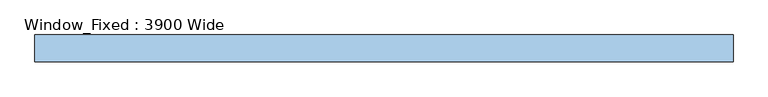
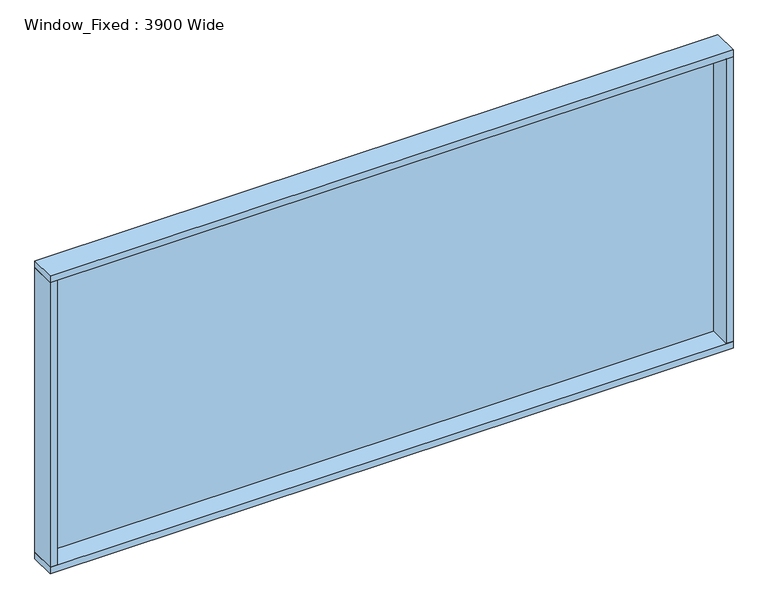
"""IFC4 building model written with IfcOpenShell, lengths in millimetres: window geometry, Window_Fixed : 3900 Wide."""

from ifc_helpers import new_model, si_unit, frame, origin, place, context, project, spatial, polyline, outline, extrude, source, transform, mapped, element, save


def window_fixed_3900_wide_c72f7c03(model_context):
    return source(origin(), model_context, "Body", "SweptSolid", [
        extrude(outline(polyline([(1910.0, 120.0), (1910.0, 108.0), (-1910.0, 108.0), (-1910.0, 120.0), (1910.0, 120.0)])), frame((0.0, 0.0, 290.0), z_axis=(0.0, 0.0, 1.0), x_axis=(1.0, 0.0, 0.0)), (0.0, 0.0, 1.0), 1720.0),
        extrude(outline(polyline([(1950.0, 135.0), (1950.0, -15.0), (-1950.0, -15.0), (-1950.0, 135.0), (1950.0, 135.0)])), frame((0.0, 0.0, 2010.0), z_axis=(0.0, 0.0, 1.0), x_axis=(1.0, 0.0, 0.0)), (0.0, 0.0, 1.0), 40.0),
        extrude(outline(polyline([(1950.0, 135.0), (1950.0, -15.0), (-1950.0, -15.0), (-1950.0, 135.0), (1950.0, 135.0)])), frame((0.0, 0.0, 250.0), z_axis=(0.0, 0.0, 1.0), x_axis=(1.0, 0.0, 0.0)), (0.0, 0.0, 1.0), 40.0),
        extrude(outline(polyline([(-1910.0, -15.0), (-1950.0, -15.0), (-1950.0, 135.0), (-1910.0, 135.0), (-1910.0, -15.0)])), frame((0.0, 0.0, 290.0), z_axis=(0.0, 0.0, 1.0), x_axis=(1.0, 0.0, 0.0)), (0.0, 0.0, 1.0), 1720.0),
        extrude(outline(polyline([(1910.0, -15.0), (1910.0, 135.0), (1950.0, 135.0), (1950.0, -15.0), (1910.0, -15.0)])), frame((0.0, 0.0, 290.0), z_axis=(0.0, 0.0, 1.0), x_axis=(1.0, 0.0, 0.0)), (0.0, 0.0, 1.0), 1720.0),
    ])


if __name__ == "__main__":
    model = new_model("IFC4")
    model_context = context("Model", 3, world=origin())
    ifc_project = project(units=[si_unit("LENGTHUNIT", "METRE", prefix="MILLI")], contexts=[model_context])
    site = spatial("IfcSite", under=ifc_project)
    building = spatial("IfcBuilding", under=site)
    placement = place(None, origin())
    window_fixed_3900_wide_shape = window_fixed_3900_wide_c72f7c03(model_context)
    element("IfcWindow", 1, ObjectType="Window_Fixed : 3900 Wide", at=placement, inside=building, context=model_context, shape_type="MappedRepresentation", body=[
        mapped(window_fixed_3900_wide_shape, transform((0.0, 0.0, 0.0), x_axis=(1.0, 0.0, 0.0), y_axis=(0.0, 1.0, 0.0), z_axis=(0.0, 0.0, 1.0))),
    ])
    save(model, "model.ifc")
